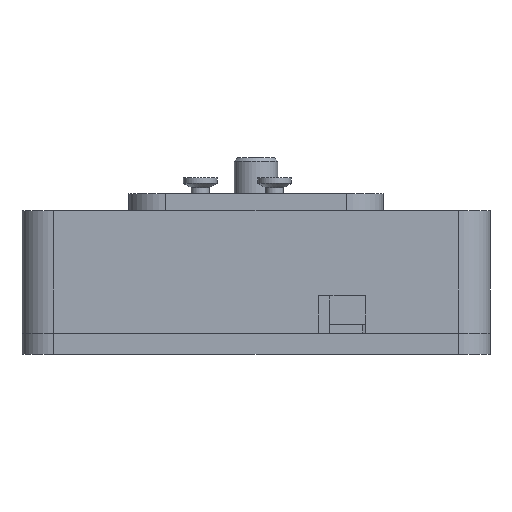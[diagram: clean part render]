
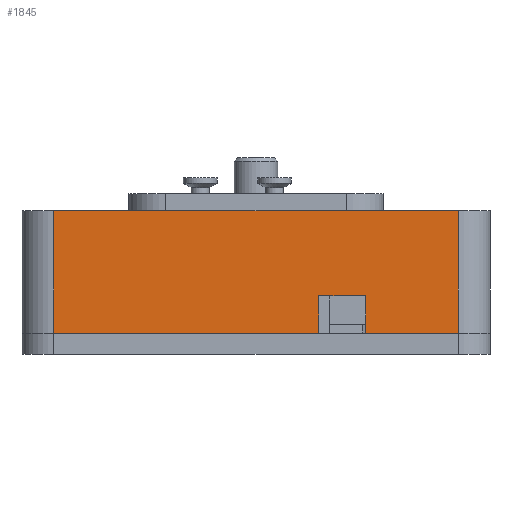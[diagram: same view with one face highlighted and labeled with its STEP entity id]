
A CAD part, front view. The second image highlights one B-rep face of the part: STEP entity #1845.
In plain terms, the highlighted planar face has unit normal (0, -1, 0).
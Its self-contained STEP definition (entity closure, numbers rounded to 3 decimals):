
#82 = PLANE('',#83);
#83 = AXIS2_PLACEMENT_3D('',#84,#85,#86);
#84 = CARTESIAN_POINT('',(-22.,-26.,-0.5));
#85 = DIRECTION('',(0.,0.,1.));
#86 = DIRECTION('',(1.,0.,0.));
#110 = CYLINDRICAL_SURFACE('',#111,3.);
#111 = AXIS2_PLACEMENT_3D('',#112,#113,#114);
#112 = CARTESIAN_POINT('',(-19.,-23.,-12.));
#113 = DIRECTION('',(0.,0.,1.));
#114 = DIRECTION('',(-1.,-0.,0.));
#138 = PLANE('',#139);
#139 = AXIS2_PLACEMENT_3D('',#140,#141,#142);
#140 = CARTESIAN_POINT('',(-22.,-26.,-12.));
#141 = DIRECTION('',(0.,0.,1.));
#142 = DIRECTION('',(1.,0.,0.));
#181 = VERTEX_POINT('',#182);
#182 = CARTESIAN_POINT('',(-19.,-26.,-0.5));
#204 = EDGE_CURVE('',#181,#205,#207,.T.);
#205 = VERTEX_POINT('',#206);
#206 = CARTESIAN_POINT('',(19.,-26.,-0.5));
#207 = SURFACE_CURVE('',#208,(#212,#219),.PCURVE_S1.);
#208 = LINE('',#209,#210);
#209 = CARTESIAN_POINT('',(-22.,-26.,-0.5));
#210 = VECTOR('',#211,1.);
#211 = DIRECTION('',(1.,0.,0.));
#212 = PCURVE('',#82,#213);
#213 = DEFINITIONAL_REPRESENTATION('',(#214),#218);
#214 = LINE('',#215,#216);
#215 = CARTESIAN_POINT('',(0.,0.));
#216 = VECTOR('',#217,1.);
#217 = DIRECTION('',(1.,0.));
#218 = ( GEOMETRIC_REPRESENTATION_CONTEXT(2) 
PARAMETRIC_REPRESENTATION_CONTEXT() REPRESENTATION_CONTEXT('2D SPACE',''
  ) );
#219 = PCURVE('',#220,#225);
#220 = PLANE('',#221);
#221 = AXIS2_PLACEMENT_3D('',#222,#223,#224);
#222 = CARTESIAN_POINT('',(-22.,-26.,-12.));
#223 = DIRECTION('',(0.,1.,0.));
#224 = DIRECTION('',(0.,0.,1.));
#225 = DEFINITIONAL_REPRESENTATION('',(#226),#230);
#226 = LINE('',#227,#228);
#227 = CARTESIAN_POINT('',(11.5,0.));
#228 = VECTOR('',#229,1.);
#229 = DIRECTION('',(0.,1.));
#230 = ( GEOMETRIC_REPRESENTATION_CONTEXT(2) 
PARAMETRIC_REPRESENTATION_CONTEXT() REPRESENTATION_CONTEXT('2D SPACE',''
  ) );
#253 = CYLINDRICAL_SURFACE('',#254,3.);
#254 = AXIS2_PLACEMENT_3D('',#255,#256,#257);
#255 = CARTESIAN_POINT('',(19.,-23.,-12.));
#256 = DIRECTION('',(0.,0.,1.));
#257 = DIRECTION('',(1.,0.,-0.));
#1056 = VERTEX_POINT('',#1057);
#1057 = CARTESIAN_POINT('',(-19.,-26.,-12.));
#1079 = EDGE_CURVE('',#1056,#181,#1080,.T.);
#1080 = SURFACE_CURVE('',#1081,(#1085,#1092),.PCURVE_S1.);
#1081 = LINE('',#1082,#1083);
#1082 = CARTESIAN_POINT('',(-19.,-26.,-12.));
#1083 = VECTOR('',#1084,1.);
#1084 = DIRECTION('',(0.,0.,1.));
#1085 = PCURVE('',#110,#1086);
#1086 = DEFINITIONAL_REPRESENTATION('',(#1087),#1091);
#1087 = LINE('',#1088,#1089);
#1088 = CARTESIAN_POINT('',(1.571,0.));
#1089 = VECTOR('',#1090,1.);
#1090 = DIRECTION('',(0.,1.));
#1091 = ( GEOMETRIC_REPRESENTATION_CONTEXT(2) 
PARAMETRIC_REPRESENTATION_CONTEXT() REPRESENTATION_CONTEXT('2D SPACE',''
  ) );
#1092 = PCURVE('',#220,#1093);
#1093 = DEFINITIONAL_REPRESENTATION('',(#1094),#1098);
#1094 = LINE('',#1095,#1096);
#1095 = CARTESIAN_POINT('',(0.,3.));
#1096 = VECTOR('',#1097,1.);
#1097 = DIRECTION('',(1.,0.));
#1098 = ( GEOMETRIC_REPRESENTATION_CONTEXT(2) 
PARAMETRIC_REPRESENTATION_CONTEXT() REPRESENTATION_CONTEXT('2D SPACE',''
  ) );
#1161 = EDGE_CURVE('',#1056,#1162,#1164,.T.);
#1162 = VERTEX_POINT('',#1163);
#1163 = CARTESIAN_POINT('',(5.9,-26.,-12.));
#1164 = SURFACE_CURVE('',#1165,(#1169,#1176),.PCURVE_S1.);
#1165 = LINE('',#1166,#1167);
#1166 = CARTESIAN_POINT('',(-22.,-26.,-12.));
#1167 = VECTOR('',#1168,1.);
#1168 = DIRECTION('',(1.,0.,0.));
#1169 = PCURVE('',#138,#1170);
#1170 = DEFINITIONAL_REPRESENTATION('',(#1171),#1175);
#1171 = LINE('',#1172,#1173);
#1172 = CARTESIAN_POINT('',(0.,0.));
#1173 = VECTOR('',#1174,1.);
#1174 = DIRECTION('',(1.,0.));
#1175 = ( GEOMETRIC_REPRESENTATION_CONTEXT(2) 
PARAMETRIC_REPRESENTATION_CONTEXT() REPRESENTATION_CONTEXT('2D SPACE',''
  ) );
#1176 = PCURVE('',#220,#1177);
#1177 = DEFINITIONAL_REPRESENTATION('',(#1178),#1182);
#1178 = LINE('',#1179,#1180);
#1179 = CARTESIAN_POINT('',(0.,0.));
#1180 = VECTOR('',#1181,1.);
#1181 = DIRECTION('',(0.,1.));
#1182 = ( GEOMETRIC_REPRESENTATION_CONTEXT(2) 
PARAMETRIC_REPRESENTATION_CONTEXT() REPRESENTATION_CONTEXT('2D SPACE',''
  ) );
#1199 = PLANE('',#1200);
#1200 = AXIS2_PLACEMENT_3D('',#1201,#1202,#1203);
#1201 = CARTESIAN_POINT('',(5.9,-28.,-12.1));
#1202 = DIRECTION('',(1.,0.,0.));
#1203 = DIRECTION('',(0.,0.,1.));
#1452 = VERTEX_POINT('',#1453);
#1453 = CARTESIAN_POINT('',(10.3,-26.,-12.));
#1466 = PLANE('',#1467);
#1467 = AXIS2_PLACEMENT_3D('',#1468,#1469,#1470);
#1468 = CARTESIAN_POINT('',(10.3,-28.,-12.1));
#1469 = DIRECTION('',(1.,0.,0.));
#1470 = DIRECTION('',(0.,0.,1.));
#1477 = EDGE_CURVE('',#1452,#1478,#1480,.T.);
#1478 = VERTEX_POINT('',#1479);
#1479 = CARTESIAN_POINT('',(19.,-26.,-12.));
#1480 = SURFACE_CURVE('',#1481,(#1485,#1492),.PCURVE_S1.);
#1481 = LINE('',#1482,#1483);
#1482 = CARTESIAN_POINT('',(-22.,-26.,-12.));
#1483 = VECTOR('',#1484,1.);
#1484 = DIRECTION('',(1.,0.,0.));
#1485 = PCURVE('',#138,#1486);
#1486 = DEFINITIONAL_REPRESENTATION('',(#1487),#1491);
#1487 = LINE('',#1488,#1489);
#1488 = CARTESIAN_POINT('',(0.,0.));
#1489 = VECTOR('',#1490,1.);
#1490 = DIRECTION('',(1.,0.));
#1491 = ( GEOMETRIC_REPRESENTATION_CONTEXT(2) 
PARAMETRIC_REPRESENTATION_CONTEXT() REPRESENTATION_CONTEXT('2D SPACE',''
  ) );
#1492 = PCURVE('',#220,#1493);
#1493 = DEFINITIONAL_REPRESENTATION('',(#1494),#1498);
#1494 = LINE('',#1495,#1496);
#1495 = CARTESIAN_POINT('',(0.,0.));
#1496 = VECTOR('',#1497,1.);
#1497 = DIRECTION('',(0.,1.));
#1498 = ( GEOMETRIC_REPRESENTATION_CONTEXT(2) 
PARAMETRIC_REPRESENTATION_CONTEXT() REPRESENTATION_CONTEXT('2D SPACE',''
  ) );
#1845 = ADVANCED_FACE('',(#1846),#220,.F.);
#1846 = FACE_BOUND('',#1847,.F.);
#1847 = EDGE_LOOP('',(#1848,#1849,#1850,#1851,#1872,#1873,#1894,#1920));
#1848 = ORIENTED_EDGE('',*,*,#1161,.F.);
#1849 = ORIENTED_EDGE('',*,*,#1079,.T.);
#1850 = ORIENTED_EDGE('',*,*,#204,.T.);
#1851 = ORIENTED_EDGE('',*,*,#1852,.F.);
#1852 = EDGE_CURVE('',#1478,#205,#1853,.T.);
#1853 = SURFACE_CURVE('',#1854,(#1858,#1865),.PCURVE_S1.);
#1854 = LINE('',#1855,#1856);
#1855 = CARTESIAN_POINT('',(19.,-26.,-12.));
#1856 = VECTOR('',#1857,1.);
#1857 = DIRECTION('',(0.,0.,1.));
#1858 = PCURVE('',#220,#1859);
#1859 = DEFINITIONAL_REPRESENTATION('',(#1860),#1864);
#1860 = LINE('',#1861,#1862);
#1861 = CARTESIAN_POINT('',(0.,41.));
#1862 = VECTOR('',#1863,1.);
#1863 = DIRECTION('',(1.,0.));
#1864 = ( GEOMETRIC_REPRESENTATION_CONTEXT(2) 
PARAMETRIC_REPRESENTATION_CONTEXT() REPRESENTATION_CONTEXT('2D SPACE',''
  ) );
#1865 = PCURVE('',#253,#1866);
#1866 = DEFINITIONAL_REPRESENTATION('',(#1867),#1871);
#1867 = LINE('',#1868,#1869);
#1868 = CARTESIAN_POINT('',(-1.571,0.));
#1869 = VECTOR('',#1870,1.);
#1870 = DIRECTION('',(-0.,1.));
#1871 = ( GEOMETRIC_REPRESENTATION_CONTEXT(2) 
PARAMETRIC_REPRESENTATION_CONTEXT() REPRESENTATION_CONTEXT('2D SPACE',''
  ) );
#1872 = ORIENTED_EDGE('',*,*,#1477,.F.);
#1873 = ORIENTED_EDGE('',*,*,#1874,.F.);
#1874 = EDGE_CURVE('',#1875,#1452,#1877,.T.);
#1875 = VERTEX_POINT('',#1876);
#1876 = CARTESIAN_POINT('',(10.3,-26.,-8.5));
#1877 = SURFACE_CURVE('',#1878,(#1882,#1888),.PCURVE_S1.);
#1878 = LINE('',#1879,#1880);
#1879 = CARTESIAN_POINT('',(10.3,-26.,-12.05));
#1880 = VECTOR('',#1881,1.);
#1881 = DIRECTION('',(0.,0.,-1.));
#1882 = PCURVE('',#220,#1883);
#1883 = DEFINITIONAL_REPRESENTATION('',(#1884),#1887);
#1884 = B_SPLINE_CURVE_WITH_KNOTS('',1,(#1885,#1886),.UNSPECIFIED.,.F.,
  .F.,(2,2),(-3.55,-0.05),.PIECEWISE_BEZIER_KNOTS.);
#1885 = CARTESIAN_POINT('',(3.5,32.3));
#1886 = CARTESIAN_POINT('',(0.,32.3));
#1887 = ( GEOMETRIC_REPRESENTATION_CONTEXT(2) 
PARAMETRIC_REPRESENTATION_CONTEXT() REPRESENTATION_CONTEXT('2D SPACE',''
  ) );
#1888 = PCURVE('',#1466,#1889);
#1889 = DEFINITIONAL_REPRESENTATION('',(#1890),#1893);
#1890 = B_SPLINE_CURVE_WITH_KNOTS('',1,(#1891,#1892),.UNSPECIFIED.,.F.,
  .F.,(2,2),(-3.55,-0.05),.PIECEWISE_BEZIER_KNOTS.);
#1891 = CARTESIAN_POINT('',(3.6,-2.));
#1892 = CARTESIAN_POINT('',(0.1,-2.));
#1893 = ( GEOMETRIC_REPRESENTATION_CONTEXT(2) 
PARAMETRIC_REPRESENTATION_CONTEXT() REPRESENTATION_CONTEXT('2D SPACE',''
  ) );
#1894 = ORIENTED_EDGE('',*,*,#1895,.F.);
#1895 = EDGE_CURVE('',#1896,#1875,#1898,.T.);
#1896 = VERTEX_POINT('',#1897);
#1897 = CARTESIAN_POINT('',(5.9,-26.,-8.5));
#1898 = SURFACE_CURVE('',#1899,(#1903,#1909),.PCURVE_S1.);
#1899 = LINE('',#1900,#1901);
#1900 = CARTESIAN_POINT('',(-8.05,-26.,-8.5));
#1901 = VECTOR('',#1902,1.);
#1902 = DIRECTION('',(1.,0.,0.));
#1903 = PCURVE('',#220,#1904);
#1904 = DEFINITIONAL_REPRESENTATION('',(#1905),#1908);
#1905 = B_SPLINE_CURVE_WITH_KNOTS('',1,(#1906,#1907),.UNSPECIFIED.,.F.,
  .F.,(2,2),(13.95,18.35),.PIECEWISE_BEZIER_KNOTS.);
#1906 = CARTESIAN_POINT('',(3.5,27.9));
#1907 = CARTESIAN_POINT('',(3.5,32.3));
#1908 = ( GEOMETRIC_REPRESENTATION_CONTEXT(2) 
PARAMETRIC_REPRESENTATION_CONTEXT() REPRESENTATION_CONTEXT('2D SPACE',''
  ) );
#1909 = PCURVE('',#1910,#1915);
#1910 = PLANE('',#1911);
#1911 = AXIS2_PLACEMENT_3D('',#1912,#1913,#1914);
#1912 = CARTESIAN_POINT('',(5.9,-28.,-8.5));
#1913 = DIRECTION('',(0.,0.,1.));
#1914 = DIRECTION('',(1.,0.,0.));
#1915 = DEFINITIONAL_REPRESENTATION('',(#1916),#1919);
#1916 = B_SPLINE_CURVE_WITH_KNOTS('',1,(#1917,#1918),.UNSPECIFIED.,.F.,
  .F.,(2,2),(13.95,18.35),.PIECEWISE_BEZIER_KNOTS.);
#1917 = CARTESIAN_POINT('',(0.,2.));
#1918 = CARTESIAN_POINT('',(4.4,2.));
#1919 = ( GEOMETRIC_REPRESENTATION_CONTEXT(2) 
PARAMETRIC_REPRESENTATION_CONTEXT() REPRESENTATION_CONTEXT('2D SPACE',''
  ) );
#1920 = ORIENTED_EDGE('',*,*,#1921,.T.);
#1921 = EDGE_CURVE('',#1896,#1162,#1922,.T.);
#1922 = SURFACE_CURVE('',#1923,(#1927,#1933),.PCURVE_S1.);
#1923 = LINE('',#1924,#1925);
#1924 = CARTESIAN_POINT('',(5.9,-26.,-12.05));
#1925 = VECTOR('',#1926,1.);
#1926 = DIRECTION('',(0.,0.,-1.));
#1927 = PCURVE('',#220,#1928);
#1928 = DEFINITIONAL_REPRESENTATION('',(#1929),#1932);
#1929 = B_SPLINE_CURVE_WITH_KNOTS('',1,(#1930,#1931),.UNSPECIFIED.,.F.,
  .F.,(2,2),(-3.55,-0.05),.PIECEWISE_BEZIER_KNOTS.);
#1930 = CARTESIAN_POINT('',(3.5,27.9));
#1931 = CARTESIAN_POINT('',(0.,27.9));
#1932 = ( GEOMETRIC_REPRESENTATION_CONTEXT(2) 
PARAMETRIC_REPRESENTATION_CONTEXT() REPRESENTATION_CONTEXT('2D SPACE',''
  ) );
#1933 = PCURVE('',#1199,#1934);
#1934 = DEFINITIONAL_REPRESENTATION('',(#1935),#1938);
#1935 = B_SPLINE_CURVE_WITH_KNOTS('',1,(#1936,#1937),.UNSPECIFIED.,.F.,
  .F.,(2,2),(-3.55,-0.05),.PIECEWISE_BEZIER_KNOTS.);
#1936 = CARTESIAN_POINT('',(3.6,-2.));
#1937 = CARTESIAN_POINT('',(0.1,-2.));
#1938 = ( GEOMETRIC_REPRESENTATION_CONTEXT(2) 
PARAMETRIC_REPRESENTATION_CONTEXT() REPRESENTATION_CONTEXT('2D SPACE',''
  ) );
